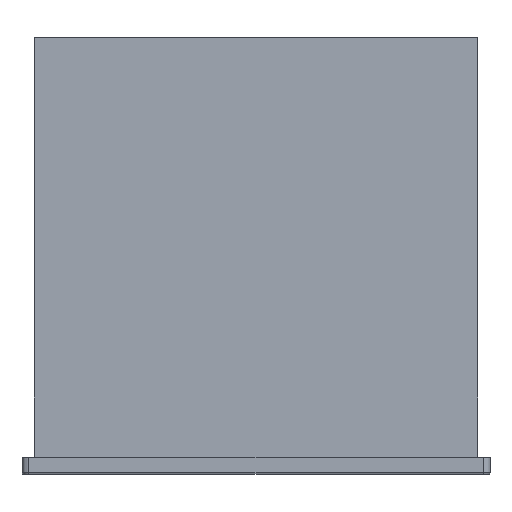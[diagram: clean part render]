
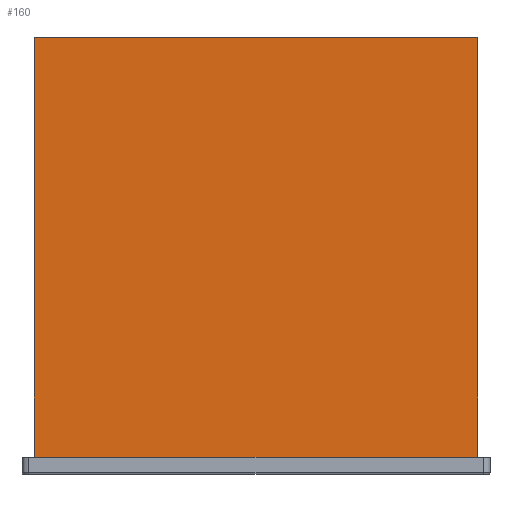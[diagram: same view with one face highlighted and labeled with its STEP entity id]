
A CAD part, front view. The second image highlights one B-rep face of the part: STEP entity #160.
In plain terms, the highlighted planar face has unit normal (0, -1, 0).
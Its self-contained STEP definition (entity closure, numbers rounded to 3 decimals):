
#160=ADVANCED_FACE('',(#193),#194,.F.);
#193=FACE_OUTER_BOUND('',#241,.T.);
#194=PLANE('',#242);
#241=EDGE_LOOP('',(#334,#335,#336,#337));
#242=AXIS2_PLACEMENT_3D('',#338,#339,#340);
#334=ORIENTED_EDGE('',*,*,#473,.T.);
#335=ORIENTED_EDGE('',*,*,#481,.F.);
#336=ORIENTED_EDGE('',*,*,#482,.F.);
#337=ORIENTED_EDGE('',*,*,#478,.T.);
#338=CARTESIAN_POINT('',(-106.5,-27.0,137.389));
#339=DIRECTION('',(0.0,1.0,0.0));
#340=DIRECTION('',(0.0,0.0,1.0));
#473=EDGE_CURVE('',#547,#551,#553,.T.);
#478=EDGE_CURVE('',#558,#547,#559,.T.);
#481=EDGE_CURVE('',#563,#551,#564,.T.);
#482=EDGE_CURVE('',#558,#563,#565,.T.);
#547=VERTEX_POINT('',#651);
#551=VERTEX_POINT('',#657);
#553=LINE('',#660,#661);
#558=VERTEX_POINT('',#666);
#559=LINE('',#667,#668);
#563=VERTEX_POINT('',#674);
#564=LINE('',#675,#676);
#565=LINE('',#677,#678);
#651=CARTESIAN_POINT('',(-106.5,-27.0,16.389));
#657=CARTESIAN_POINT('',(21.5,-27.0,16.389));
#660=CARTESIAN_POINT('',(-106.5,-27.0,16.389));
#661=VECTOR('',#733,1.0);
#666=CARTESIAN_POINT('',(-106.5,-27.0,137.389));
#667=CARTESIAN_POINT('',(-106.5,-27.0,137.389));
#668=VECTOR('',#746,1.0);
#674=CARTESIAN_POINT('',(21.5,-27.0,137.389));
#675=CARTESIAN_POINT('',(21.5,-27.0,137.389));
#676=VECTOR('',#749,1.0);
#677=CARTESIAN_POINT('',(-106.5,-27.0,137.389));
#678=VECTOR('',#750,1.0);
#733=DIRECTION('',(1.0,0.0,0.0));
#746=DIRECTION('',(0.0,0.0,-1.0));
#749=DIRECTION('',(0.0,0.0,-1.0));
#750=DIRECTION('',(1.0,0.0,0.0));
